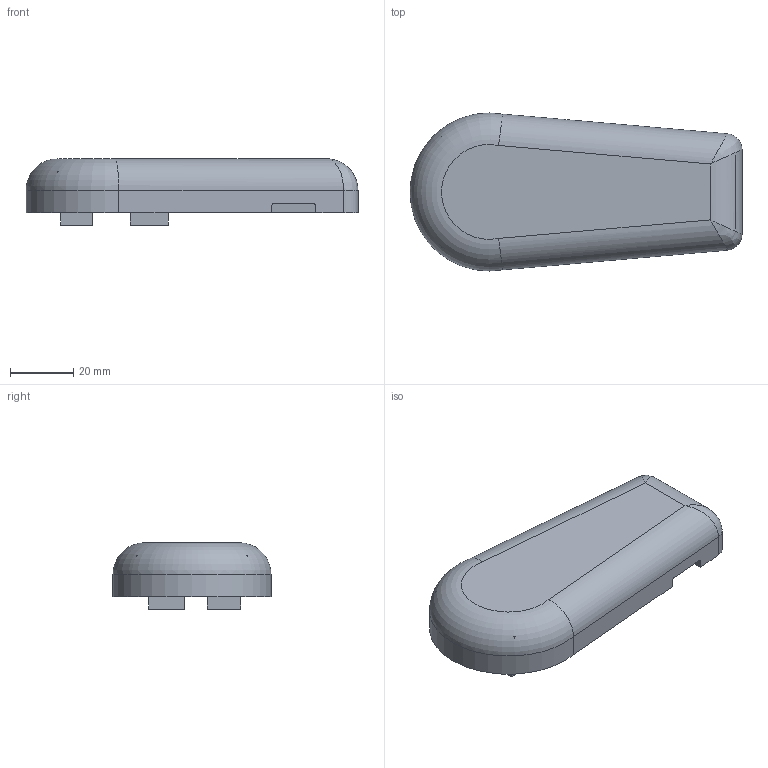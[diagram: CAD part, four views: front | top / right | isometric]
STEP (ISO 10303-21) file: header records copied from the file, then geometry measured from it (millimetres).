
FILE_DESCRIPTION(/* description */ ('','CAx-IF Rec.Pracs.---Representation and Presentation of Product Manufacturing Information (PMI)---4.0---2014-10-13'),/* implementation_level */ '2;1');
FILE_NAME(/* name */ 'frame.stp',/* time_stamp */ '2026-06-07T10:14:47+02:00',/* author */ ('R5800u'),/* organization */ (''),/* preprocessor_version */ 'ST-DEVELOPER v20',/* originating_system */ 'Autodesk Inventor 2025',/* authorisation */ '');
FILE_SCHEMA (('AP242_MANAGED_MODEL_BASED_3D_ENGINEERING_MIM_LF { 1 0 10303 442 1 1 4 }'));
Length unit declared in the file: millimetre
Products named in the file (1): frame
Bounding box: 105 x 50 x 21 mm (x, y, z)
Volume: 31776.7 mm3; surface area: 18093.3 mm2
Topology: 1 solids, 1 shells, 155 faces, 422 edges, 265 vertices
Faces by surface type: plane 74, cylinder 58, cone 11, bspline 4, torus 4, sphere 4
Full cylindrical faces by diameter (mm): 1.7 x6, 1.8 x5
Entity records: 5059 total; most frequent: CARTESIAN_POINT 1034, DIRECTION 839, ORIENTED_EDGE 818, EDGE_CURVE 409, AXIS2_PLACEMENT_3D 281, LINE 277, VECTOR 277, VERTEX_POINT 265
